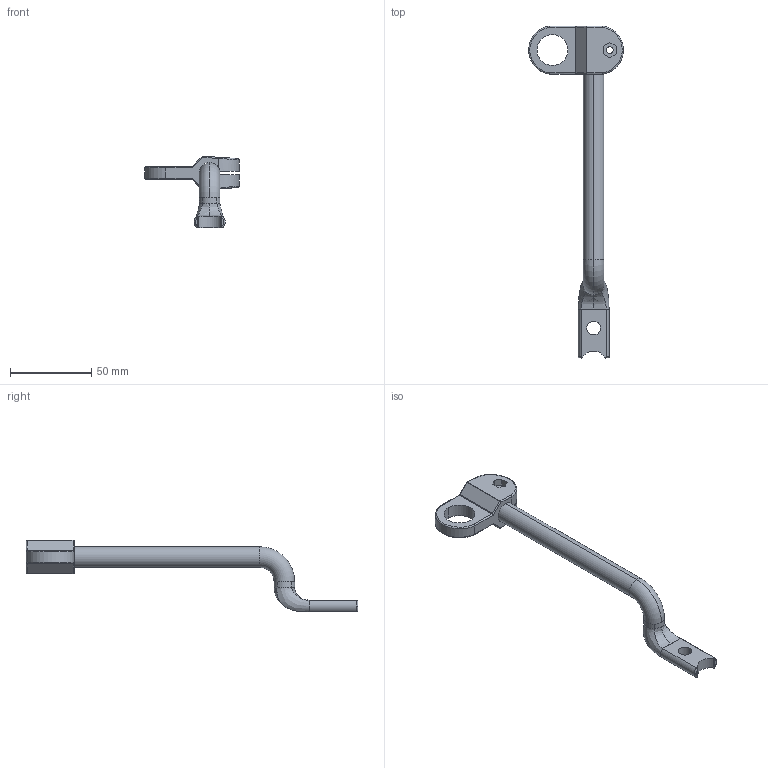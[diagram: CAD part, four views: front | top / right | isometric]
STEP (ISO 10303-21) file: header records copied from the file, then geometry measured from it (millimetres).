
FILE_DESCRIPTION((''),'2;1');
FILE_NAME('7352CM-FP_ASM','2023-03-23T',('jenni.wallner'),(''),'PRO/ENGINEER BY PARAMETRIC TECHNOLOGY CORPORATION, 2012420','PRO/ENGINEER BY PARAMETRIC TECHNOLOGY CORPORATION, 2012420','');
FILE_SCHEMA(('CONFIG_CONTROL_DESIGN'));
Length unit declared in the file: inch
Products named in the file (6): 807-1391; CHAMFER1; FILLET3; 516996_ASM; ASM0001_ASM; 7352CM-FP_ASM
Assembly tree (5 placements, depth 4):
  7352CM-FP_ASM
    ASM0001_ASM
      807-1391
      516996_ASM
        CHAMFER1
        FILLET3
Bounding box: 58.37 x 204.72 x 44.18 mm (x, y, z)
Volume: 40749 mm3; surface area: 16413.8 mm2
Topology: 3 solids, 3 shells, 95 faces, 229 edges, 142 vertices
Faces by surface type: cylinder 46, plane 25, bspline 15, torus 7, cone 2
Entity records: 3970 total; most frequent: CARTESIAN_POINT 1666, ORIENTED_EDGE 458, DIRECTION 448, EDGE_CURVE 229, AXIS2_PLACEMENT_3D 177, VERTEX_POINT 142, EDGE_LOOP 105, FACE_OUTER_BOUND 95
